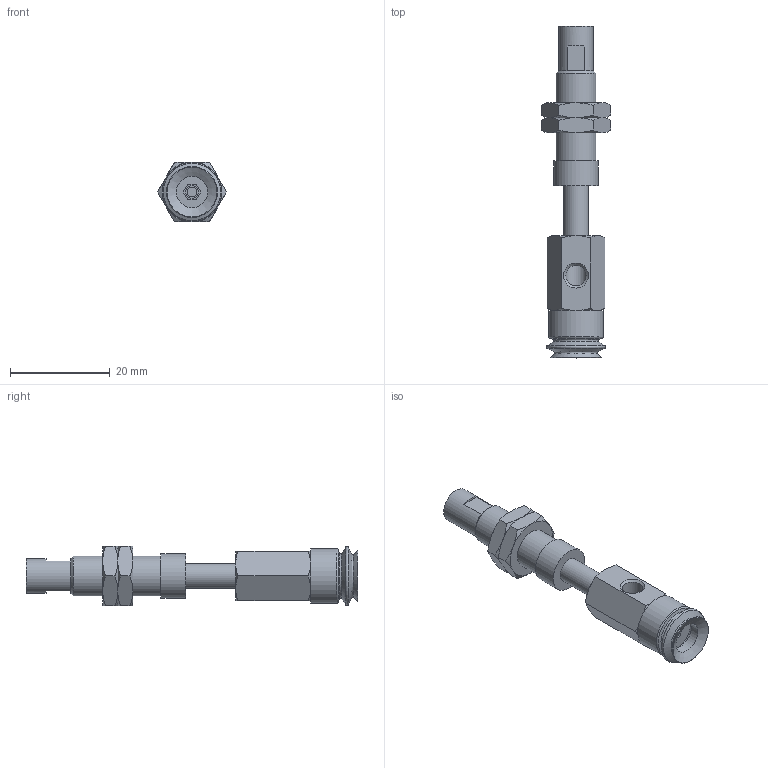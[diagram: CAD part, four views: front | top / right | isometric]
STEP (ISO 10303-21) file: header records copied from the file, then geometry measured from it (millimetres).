
FILE_DESCRIPTION(('STEP AP203'),'1');
FILE_NAME('.stp','2025-04-24T00:35:31',(' '),(' '),'Spatial InterOp 3D',' ',' ');
FILE_SCHEMA(('CONFIG_CONTROL_DESIGN'));
Length unit declared in the file: millimetre
Products named in the file (7): BNABPJYS-10-10-※; Adapter-10-NAPJ; CONNECTOR_S-10-10; NUT-NAPJ-10-10-s; NAPJTS-10-10-FBODY; NAPJTS-10-10-MBODY; BPJG-10-※
Assembly tree (7 placements, depth 2):
  BNABPJYS-10-10-※
    Adapter-10-NAPJ
    CONNECTOR_S-10-10
    NUT-NAPJ-10-10-s  x2
    NAPJTS-10-10-FBODY
    NAPJTS-10-10-MBODY
    BPJG-10-※
Bounding box: 13.86 x 66.5 x 12 mm (x, y, z)
Volume: 3937 mm3; surface area: 4776.4 mm2
Topology: 7 solids, 7 shells, 136 faces, 286 edges, 173 vertices
Faces by surface type: plane 57, cone 53, cylinder 19, torus 7
Full cylindrical faces by diameter (mm): 2 x1, 2.5 x1, 4.134 x3, 4.6 x1, 5 x4, 6.266 x1, 7 x1, 7.188 x2, 7.8 x1, 8 x2, 9 x1, 11 x1
Entity records: 3286 total; most frequent: CARTESIAN_POINT 735, DIRECTION 468, ORIENTED_EDGE 378, AXIS2_PLACEMENT_3D 206, EDGE_CURVE 189, EDGE_LOOP 174, FACE_OUTER_BOUND 138, VERTEX_POINT 137
